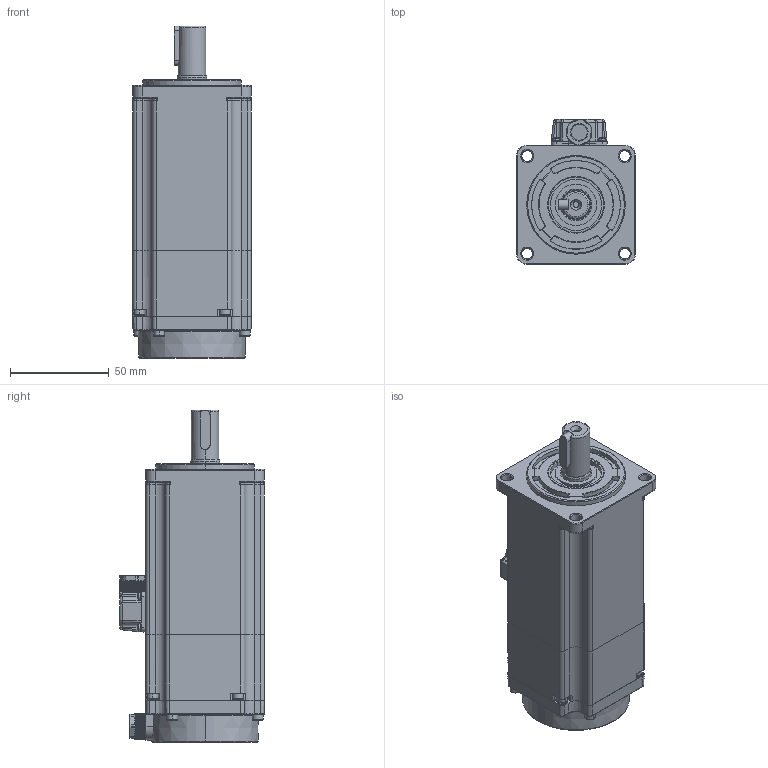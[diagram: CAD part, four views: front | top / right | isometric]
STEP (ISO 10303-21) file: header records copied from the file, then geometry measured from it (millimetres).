
FILE_DESCRIPTION (( 'STEP AP203' ), '1' );
FILE_NAME ('G3系列60ST-600W刹车电机三维图.STEP', '2023-09-27T05:28:25', ( '微软用户' ), ( '微软中国' ), 'SwSTEP 2.0', 'SolidWorks 2016', '' );
FILE_SCHEMA (( 'CONFIG_CONTROL_DESIGN' ));
Products named in the file (1): G3系列60ST-600W刹车电机三维图
Bounding box: 60.2 x 73.5 x 168.3 mm (x, y, z)
Volume: 168337.6 mm3; surface area: 106355.1 mm2
Topology: 22 solids, 22 shells, 3075 faces, 7798 edges, 4791 vertices
Faces by surface type: plane 1626, cylinder 577, cone 489, torus 174, bspline 159, sphere 50
Entity records: 96606 total; most frequent: CARTESIAN_POINT 23656, ORIENTED_EDGE 15344, DIRECTION 15278, EDGE_CURVE 7672, AXIS2_PLACEMENT_3D 5557, VERTEX_POINT 4723, LINE 4164, VECTOR 4164
